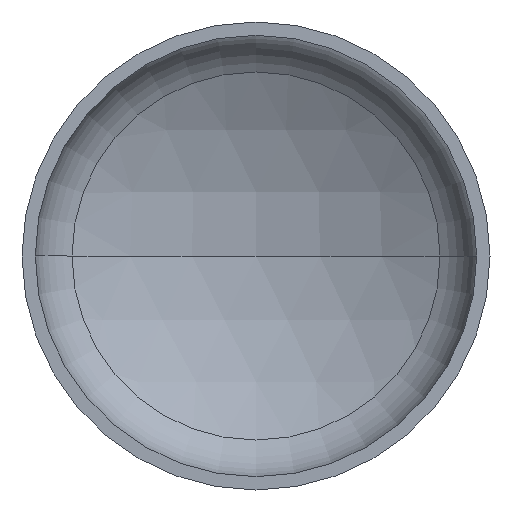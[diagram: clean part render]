
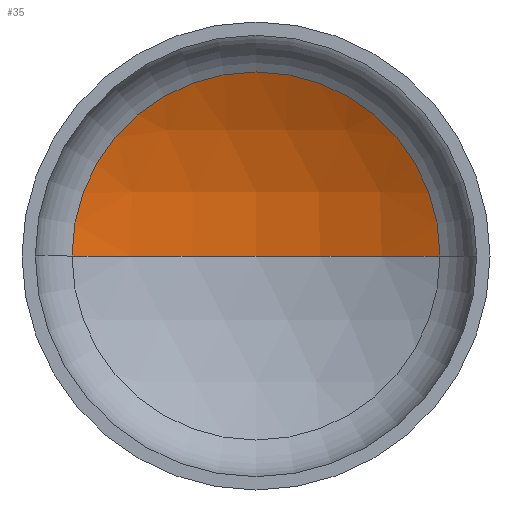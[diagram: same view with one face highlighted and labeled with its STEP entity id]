
A CAD part, front view. The second image highlights one B-rep face of the part: STEP entity #35.
In plain terms, the highlighted spherical face has radius 3040 mm.
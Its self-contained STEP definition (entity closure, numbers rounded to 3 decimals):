
#1 = CARTESIAN_POINT ( 'NONE',  ( 0., 584.414, 0. ) ) ;
#4 = AXIS2_PLACEMENT_3D ( 'NONE', #125, #289, #154 ) ;
#9 = AXIS2_PLACEMENT_3D ( 'NONE', #171, #239, #215 ) ;
#13 = EDGE_LOOP ( 'NONE', ( #80, #107, #66 ) ) ;
#35 = ADVANCED_FACE ( 'NONE', ( #128 ), #273, .F. ) ;
#41 = VERTEX_POINT ( 'NONE', #188 ) ;
#46 = VERTEX_POINT ( 'NONE', #298 ) ;
#66 = ORIENTED_EDGE ( 'NONE', *, *, #356, .T. ) ;
#71 = AXIS2_PLACEMENT_3D ( 'NONE', #322, #209, #348 ) ;
#80 = ORIENTED_EDGE ( 'NONE', *, *, #329, .F. ) ;
#88 = VERTEX_POINT ( 'NONE', #253 ) ;
#107 = ORIENTED_EDGE ( 'NONE', *, *, #349, .T. ) ;
#125 = CARTESIAN_POINT ( 'NONE',  ( 0., -2062.797, 0. ) ) ;
#128 = FACE_OUTER_BOUND ( 'NONE', #13, .T. ) ;
#152 = CIRCLE ( 'NONE', #4, 3040. ) ;
#154 = DIRECTION ( 'NONE',  ( -1., 0., 0. ) ) ;
#171 = CARTESIAN_POINT ( 'NONE',  ( 0., -2062.797, 0. ) ) ;
#188 = CARTESIAN_POINT ( 'NONE',  ( -1494.615, 584.414, 0. ) ) ;
#209 = DIRECTION ( 'NONE',  ( 0., 0., -1. ) ) ;
#215 = DIRECTION ( 'NONE',  ( 1., 0., 0. ) ) ;
#239 = DIRECTION ( 'NONE',  ( 0., 0., 1. ) ) ;
#253 = CARTESIAN_POINT ( 'NONE',  ( 1494.615, 584.414, 0. ) ) ;
#265 = DIRECTION ( 'NONE',  ( 0., -1., 0. ) ) ;
#270 = CIRCLE ( 'NONE', #365, 1494.615 ) ;
#273 = SPHERICAL_SURFACE ( 'NONE', #71, 3040. ) ;
#289 = DIRECTION ( 'NONE',  ( 0., 0., -1. ) ) ;
#298 = CARTESIAN_POINT ( 'NONE',  ( 0., 977.203, 0. ) ) ;
#322 = CARTESIAN_POINT ( 'NONE',  ( 0., -2062.797, 0. ) ) ;
#329 = EDGE_CURVE ( 'NONE', #46, #41, #340, .T. ) ;
#340 = CIRCLE ( 'NONE', #9, 3040. ) ;
#348 = DIRECTION ( 'NONE',  ( -1., 0., 0. ) ) ;
#349 = EDGE_CURVE ( 'NONE', #46, #88, #152, .T. ) ;
#356 = EDGE_CURVE ( 'NONE', #88, #41, #270, .T. ) ;
#359 = DIRECTION ( 'NONE',  ( 1., 0., 0. ) ) ;
#365 = AXIS2_PLACEMENT_3D ( 'NONE', #1, #265, #359 ) ;
